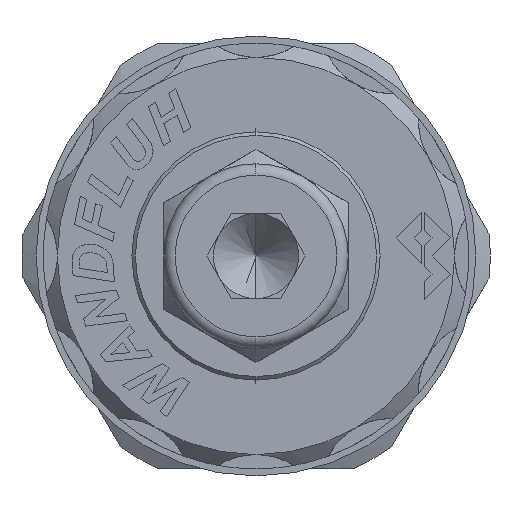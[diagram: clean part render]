
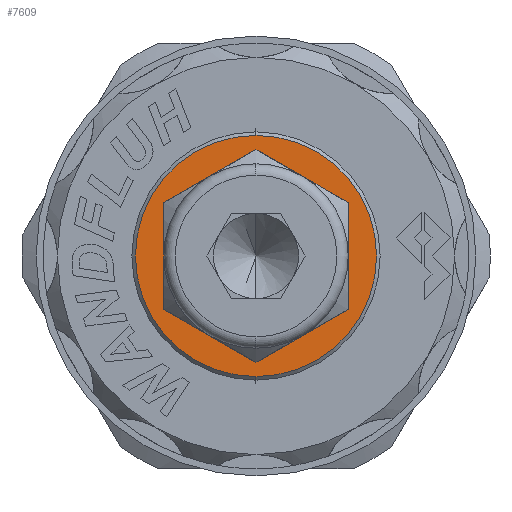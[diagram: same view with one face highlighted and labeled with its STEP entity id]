
A CAD part, left-side view. The second image highlights one B-rep face of the part: STEP entity #7609.
In plain terms, the highlighted planar face has unit normal (-1, 0, 0).
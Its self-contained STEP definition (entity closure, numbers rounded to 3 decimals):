
#225 = DIRECTION ( 'NONE',  ( 0., 0., 1. ) ) ;
#535 = VECTOR ( 'NONE', #10351, 1000. ) ;
#823 = CARTESIAN_POINT ( 'NONE',  ( -79.7, 0., -7.506 ) ) ;
#1322 = CIRCLE ( 'NONE', #17981, 8.5 ) ;
#1645 = DIRECTION ( 'NONE',  ( -1., 0., 0. ) ) ;
#1668 = DIRECTION ( 'NONE',  ( 0., 0., 1. ) ) ;
#1687 = VERTEX_POINT ( 'NONE', #8136 ) ;
#1837 = CARTESIAN_POINT ( 'NONE',  ( -79.7, 0., 0. ) ) ;
#2615 = DIRECTION ( 'NONE',  ( 0., 0.866, 0.5 ) ) ;
#2669 = VECTOR ( 'NONE', #2615, 1000. ) ;
#3041 = VERTEX_POINT ( 'NONE', #8090 ) ;
#3859 = LINE ( 'NONE', #823, #11711 ) ;
#4690 = EDGE_CURVE ( 'NONE', #11855, #17272, #17529, .T. ) ;
#5089 = CARTESIAN_POINT ( 'NONE',  ( -79.7, 6.5, 3.753 ) ) ;
#5109 = VERTEX_POINT ( 'NONE', #13314 ) ;
#5275 = CARTESIAN_POINT ( 'NONE',  ( -79.7, -6.5, 3.753 ) ) ;
#5502 = CARTESIAN_POINT ( 'NONE',  ( -79.7, -6.5, 3.753 ) ) ;
#5815 = DIRECTION ( 'NONE',  ( -1., 0., 0. ) ) ;
#6118 = EDGE_LOOP ( 'NONE', ( #9321, #16717, #12173, #14518, #13080, #13029 ) ) ;
#6850 = VECTOR ( 'NONE', #12961, 1000. ) ;
#6986 = VECTOR ( 'NONE', #11153, 1000. ) ;
#7273 = AXIS2_PLACEMENT_3D ( 'NONE', #1837, #1645, #1668 ) ;
#7290 = EDGE_LOOP ( 'NONE', ( #13931, #10319 ) ) ;
#7596 = FACE_OUTER_BOUND ( 'NONE', #7290, .T. ) ;
#7609 = ADVANCED_FACE ( 'NONE', ( #19761, #7596 ), #20203, .T. ) ;
#8002 = CARTESIAN_POINT ( 'NONE',  ( -79.7, 0., -8.5 ) ) ;
#8090 = CARTESIAN_POINT ( 'NONE',  ( -79.7, 6.5, 3.753 ) ) ;
#8136 = CARTESIAN_POINT ( 'NONE',  ( -79.7, 6.5, -3.753 ) ) ;
#8287 = CARTESIAN_POINT ( 'NONE',  ( -79.7, -6.5, -3.753 ) ) ;
#8715 = CARTESIAN_POINT ( 'NONE',  ( -79.7, 0., 0. ) ) ;
#8758 = LINE ( 'NONE', #19924, #535 ) ;
#8826 = EDGE_CURVE ( 'NONE', #12936, #14613, #15716, .T. ) ;
#8875 = DIRECTION ( 'NONE',  ( -1., 0., 0. ) ) ;
#8898 = DIRECTION ( 'NONE',  ( 0., 0., 1. ) ) ;
#9321 = ORIENTED_EDGE ( 'NONE', *, *, #18045, .F. ) ;
#9540 = CARTESIAN_POINT ( 'NONE',  ( -79.7, 0., 7.506 ) ) ;
#9782 = AXIS2_PLACEMENT_3D ( 'NONE', #8715, #8875, #8898 ) ;
#10155 = DIRECTION ( 'NONE',  ( 0., -0.866, 0.5 ) ) ;
#10319 = ORIENTED_EDGE ( 'NONE', *, *, #12693, .T. ) ;
#10351 = DIRECTION ( 'NONE',  ( 0., -0.866, -0.5 ) ) ;
#11153 = DIRECTION ( 'NONE',  ( 0., 0.866, -0.5 ) ) ;
#11302 = EDGE_CURVE ( 'NONE', #17272, #19628, #19429, .T. ) ;
#11711 = VECTOR ( 'NONE', #10155, 1000. ) ;
#11855 = VERTEX_POINT ( 'NONE', #8287 ) ;
#12173 = ORIENTED_EDGE ( 'NONE', *, *, #4690, .F. ) ;
#12693 = EDGE_CURVE ( 'NONE', #14613, #12936, #1322, .T. ) ;
#12936 = VERTEX_POINT ( 'NONE', #8002 ) ;
#12961 = DIRECTION ( 'NONE',  ( 0., 0., -1. ) ) ;
#13029 = ORIENTED_EDGE ( 'NONE', *, *, #14782, .F. ) ;
#13080 = ORIENTED_EDGE ( 'NONE', *, *, #13732, .F. ) ;
#13314 = CARTESIAN_POINT ( 'NONE',  ( -79.7, 0., -7.506 ) ) ;
#13344 = VECTOR ( 'NONE', #225, 1000. ) ;
#13732 = EDGE_CURVE ( 'NONE', #1687, #5109, #8758, .T. ) ;
#13931 = ORIENTED_EDGE ( 'NONE', *, *, #8826, .T. ) ;
#14351 = CARTESIAN_POINT ( 'NONE',  ( -79.7, 0., 7.506 ) ) ;
#14518 = ORIENTED_EDGE ( 'NONE', *, *, #18255, .F. ) ;
#14613 = VERTEX_POINT ( 'NONE', #18752 ) ;
#14782 = EDGE_CURVE ( 'NONE', #3041, #1687, #15380, .T. ) ;
#15328 = CARTESIAN_POINT ( 'NONE',  ( -79.7, 0., 0. ) ) ;
#15380 = LINE ( 'NONE', #5089, #6850 ) ;
#15716 = CIRCLE ( 'NONE', #9782, 8.5 ) ;
#16032 = LINE ( 'NONE', #9540, #6986 ) ;
#16717 = ORIENTED_EDGE ( 'NONE', *, *, #11302, .F. ) ;
#16884 = DIRECTION ( 'NONE',  ( 0., 0., 1. ) ) ;
#17272 = VERTEX_POINT ( 'NONE', #5502 ) ;
#17529 = LINE ( 'NONE', #18525, #13344 ) ;
#17981 = AXIS2_PLACEMENT_3D ( 'NONE', #15328, #5815, #16884 ) ;
#18045 = EDGE_CURVE ( 'NONE', #19628, #3041, #16032, .T. ) ;
#18255 = EDGE_CURVE ( 'NONE', #5109, #11855, #3859, .T. ) ;
#18525 = CARTESIAN_POINT ( 'NONE',  ( -79.7, -6.5, -3.753 ) ) ;
#18752 = CARTESIAN_POINT ( 'NONE',  ( -79.7, 0., 8.5 ) ) ;
#19429 = LINE ( 'NONE', #5275, #2669 ) ;
#19628 = VERTEX_POINT ( 'NONE', #14351 ) ;
#19761 = FACE_BOUND ( 'NONE', #6118, .T. ) ;
#19924 = CARTESIAN_POINT ( 'NONE',  ( -79.7, 6.5, -3.753 ) ) ;
#20203 = PLANE ( 'NONE',  #7273 ) ;
